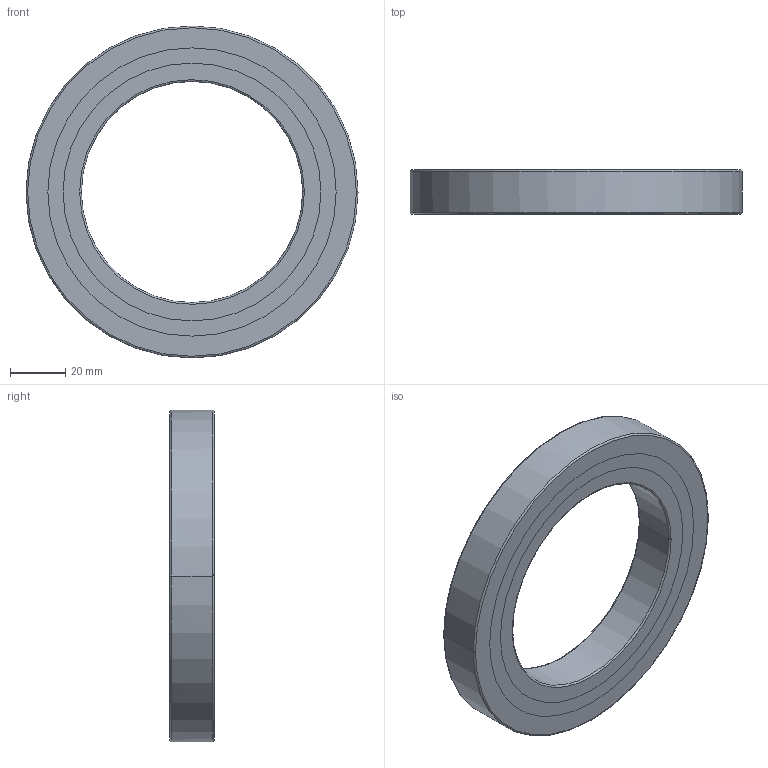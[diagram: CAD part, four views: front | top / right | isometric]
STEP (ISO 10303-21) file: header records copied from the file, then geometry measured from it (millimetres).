
FILE_DESCRIPTION(('no description'),'unknown implementation level');
FILE_NAME('CRBC08016_96.stp',' ',('HIWIN GmbH'),('CADClick - KiM GmbH - www.kimweb.de'),'unknown preprocess','ACIS','unknown authorization');
FILE_SCHEMA(('automotive_design'));
Length unit declared in the file: millimetre
Products named in the file (4): CRBC08016_1; CRBC08016_2; CRBC08016_3; CRBC08016
Bounding box: 120 x 16 x 120 mm (x, y, z)
Volume: 78263.5 mm3; surface area: 37489.5 mm2
Topology: 4 solids, 4 shells, 40 faces, 88 edges, 56 vertices
Faces by surface type: cylinder 16, torus 16, plane 8
Entity records: 2289 total; most frequent: DIRECTION 248, STYLED_ITEM 188, PRESENTATION_STYLE_ASSIGNMENT 188, CARTESIAN_POINT 188, COLOUR_RGB 188, ORIENTED_EDGE 176, AXIS2_PLACEMENT_3D 116, EDGE_CURVE 88
